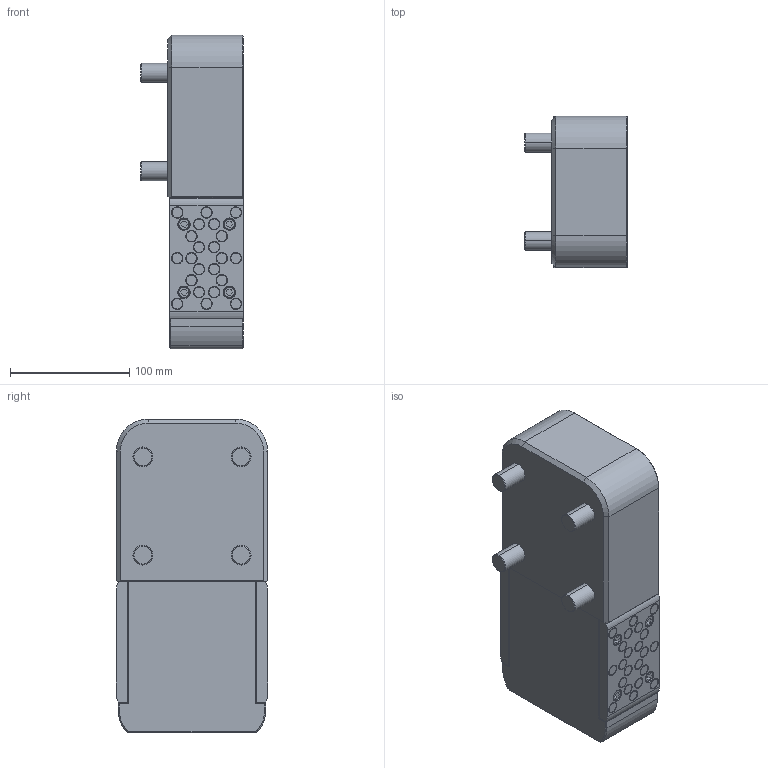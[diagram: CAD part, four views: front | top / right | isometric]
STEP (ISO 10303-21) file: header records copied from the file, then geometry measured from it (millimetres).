
FILE_DESCRIPTION (( 'STEP AP203' ), '1' );
FILE_NAME ('BLN250L10.step', '2017-02-07T15:57:25', ( '' ), ( '' ), 'SwSTEP 2.0', 'SolidWorks 2014', '' );
FILE_SCHEMA (( 'CONFIG_CONTROL_DESIGN' ));
Length unit declared in the file: inch
Products named in the file (5): 58-11x275 SHCS; 14-20x50 SHCS; BLN250L10; BLS250L4_375; BLB250L10
Assembly tree (15 placements, depth 2):
  BLN250L10
    BLB250L10
    BLS250L4_375  x2
    14-20x50 SHCS  x8
    58-11x275 SHCS  x4
Bounding box: 86.49 x 127 x 263.52 mm (x, y, z)
Volume: 2056782.9 mm3; surface area: 189612.3 mm2
Topology: 15 solids, 15 shells, 677 faces, 1463 edges, 931 vertices
Faces by surface type: cylinder 310, plane 281, cone 78, torus 8
Entity records: 10014 total; most frequent: DIRECTION 1755, CARTESIAN_POINT 1565, ORIENTED_EDGE 1434, EDGE_CURVE 717, AXIS2_PLACEMENT_3D 699, VERTEX_POINT 459, EDGE_LOOP 412, VECTOR 357
